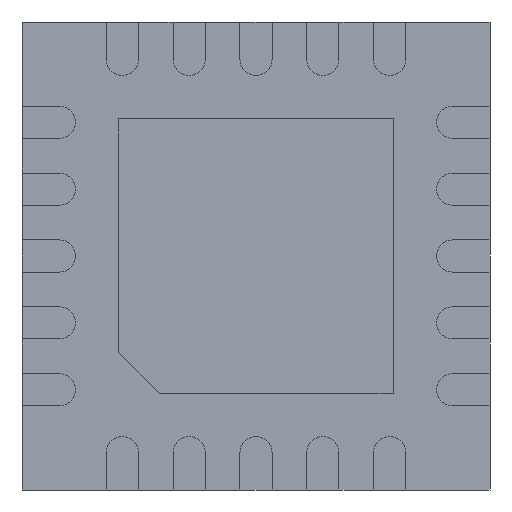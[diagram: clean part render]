
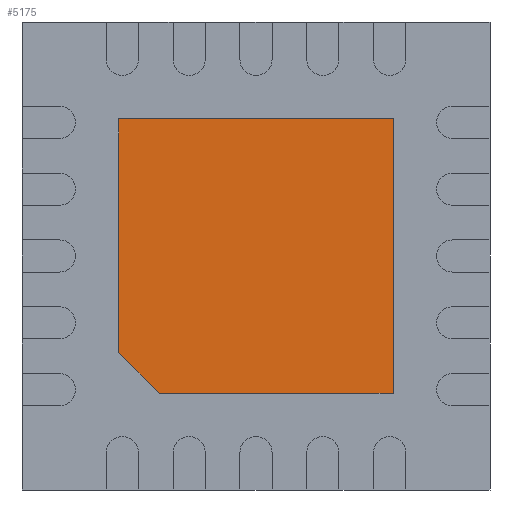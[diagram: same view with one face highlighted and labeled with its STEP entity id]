
A CAD part, front view. The second image highlights one B-rep face of the part: STEP entity #5175.
In plain terms, the highlighted planar face has unit normal (0, -1, 0).
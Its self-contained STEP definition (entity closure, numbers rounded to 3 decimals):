
#5061 = VERTEX_POINT('',#5062);
#5062 = CARTESIAN_POINT('',(-1.025,0.175,1.025));
#5068 = EDGE_CURVE('',#5069,#5061,#5071,.T.);
#5069 = VERTEX_POINT('',#5070);
#5070 = CARTESIAN_POINT('',(-1.025,0.175,-0.725));
#5071 = LINE('',#5072,#5073);
#5072 = CARTESIAN_POINT('',(-1.025,0.175,-0.725));
#5073 = VECTOR('',#5074,1.);
#5074 = DIRECTION('',(0.,0.,1.));
#5092 = VERTEX_POINT('',#5093);
#5093 = CARTESIAN_POINT('',(1.025,0.175,1.025));
#5099 = EDGE_CURVE('',#5061,#5092,#5100,.T.);
#5100 = LINE('',#5101,#5102);
#5101 = CARTESIAN_POINT('',(-1.025,0.175,1.025));
#5102 = VECTOR('',#5103,1.);
#5103 = DIRECTION('',(1.,0.,0.));
#5116 = VERTEX_POINT('',#5117);
#5117 = CARTESIAN_POINT('',(1.025,0.175,-1.025));
#5123 = EDGE_CURVE('',#5092,#5116,#5124,.T.);
#5124 = LINE('',#5125,#5126);
#5125 = CARTESIAN_POINT('',(1.025,0.175,1.025));
#5126 = VECTOR('',#5127,1.);
#5127 = DIRECTION('',(0.,0.,-1.));
#5140 = VERTEX_POINT('',#5141);
#5141 = CARTESIAN_POINT('',(-0.725,0.175,-1.025));
#5147 = EDGE_CURVE('',#5116,#5140,#5148,.T.);
#5148 = LINE('',#5149,#5150);
#5149 = CARTESIAN_POINT('',(1.025,0.175,-1.025));
#5150 = VECTOR('',#5151,1.);
#5151 = DIRECTION('',(-1.,0.,0.));
#5164 = EDGE_CURVE('',#5140,#5069,#5165,.T.);
#5165 = LINE('',#5166,#5167);
#5166 = CARTESIAN_POINT('',(-0.725,0.175,-1.025));
#5167 = VECTOR('',#5168,1.);
#5168 = DIRECTION('',(-0.707,0.,0.707));
#5175 = ADVANCED_FACE('',(#5176),#5183,.F.);
#5176 = FACE_BOUND('',#5177,.F.);
#5177 = EDGE_LOOP('',(#5178,#5179,#5180,#5181,#5182));
#5178 = ORIENTED_EDGE('',*,*,#5164,.T.);
#5179 = ORIENTED_EDGE('',*,*,#5068,.T.);
#5180 = ORIENTED_EDGE('',*,*,#5099,.T.);
#5181 = ORIENTED_EDGE('',*,*,#5123,.T.);
#5182 = ORIENTED_EDGE('',*,*,#5147,.T.);
#5183 = PLANE('',#5184);
#5184 = AXIS2_PLACEMENT_3D('',#5185,#5186,#5187);
#5185 = CARTESIAN_POINT('',(0.,0.175,0.));
#5186 = DIRECTION('',(0.,1.,0.));
#5187 = DIRECTION('',(1.,0.,0.));
